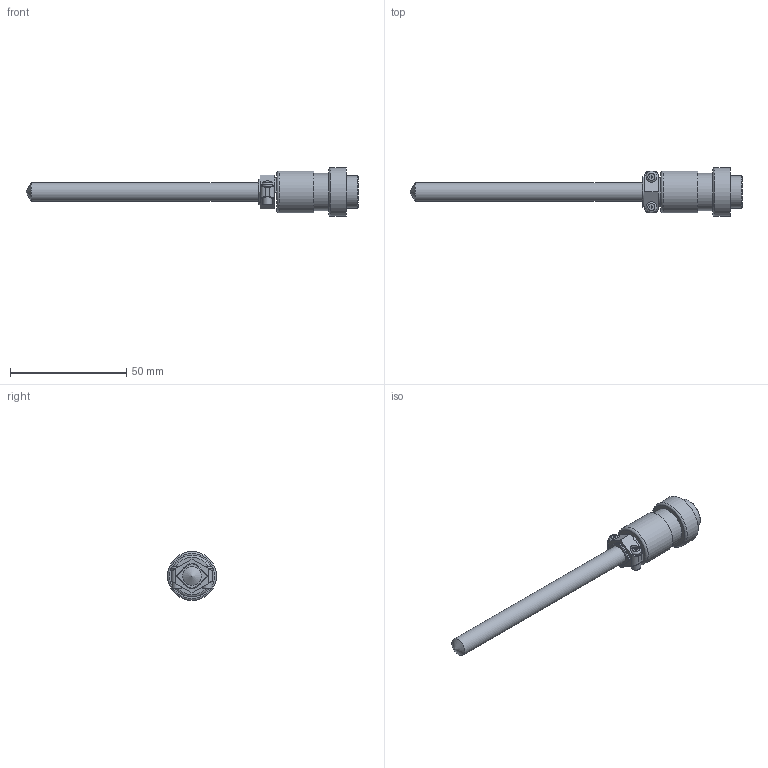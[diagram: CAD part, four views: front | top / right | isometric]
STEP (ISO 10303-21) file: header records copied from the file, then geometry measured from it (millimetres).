
FILE_DESCRIPTION (( 'STEP AP203' ), '1' );
FILE_NAME ('YIR90S-4(0).step', '2025-06-19T05:06:15', ( '' ), ( '' ), 'SwSTEP 2.0', 'SolidWorks 2021', '' );
FILE_SCHEMA (( 'CONFIG_CONTROL_DESIGN' ));
Length unit declared in the file: millimetre
Products named in the file (1): YIR90S-4(0)
Bounding box: 143 x 21 x 21 mm (x, y, z)
Volume: 13244.2 mm3; surface area: 7314.5 mm2
Topology: 4 solids, 4 shells, 84 faces, 202 edges, 132 vertices
Faces by surface type: plane 50, cylinder 21, torus 4, bspline 4, sphere 3, cone 2
Full cylindrical faces by diameter (mm): 2 x2, 2.5 x1, 4 x2, 4.7 x2, 4.8 x2, 8 x1, 13.5 x1, 14 x1, 16 x2, 18 x1, 21 x1
Entity records: 2421 total; most frequent: CARTESIAN_POINT 621, DIRECTION 336, ORIENTED_EDGE 320, EDGE_CURVE 160, EDGE_LOOP 122, VERTEX_POINT 118, AXIS2_PLACEMENT_3D 117, FACE_OUTER_BOUND 104
